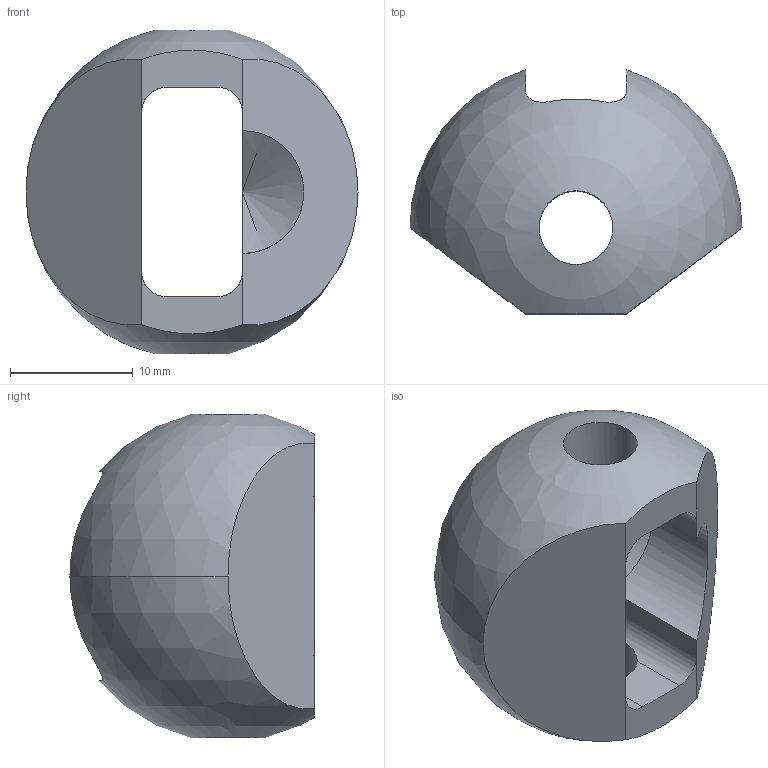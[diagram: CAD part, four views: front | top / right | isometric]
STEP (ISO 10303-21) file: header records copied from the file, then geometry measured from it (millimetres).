
FILE_DESCRIPTION (( 'STEP AP214' ), '1' );
FILE_NAME ('Ñôåðà.STEP', '2014-12-23T06:44:06', ( 'Ïîëüçîâàòåëü Windows' ), ( '' ), 'SwSTEP 2.0', 'SolidWorks 2012', '' );
FILE_SCHEMA (( 'AUTOMOTIVE_DESIGN' ));
Length unit declared in the file: millimetre
Products named in the file (1): Ñôåðà
Bounding box: 27 x 19.86 x 26.32 mm (x, y, z)
Volume: 4734 mm3; surface area: 2681 mm2
Topology: 1 solids, 1 shells, 23 faces, 75 edges, 47 vertices
Faces by surface type: cylinder 10, plane 10, sphere 2, cone 1
Entity records: 952 total; most frequent: CARTESIAN_POINT 269, ORIENTED_EDGE 144, DIRECTION 134, EDGE_CURVE 72, AXIS2_PLACEMENT_3D 52, VERTEX_POINT 47, VECTOR 30, LINE 30
